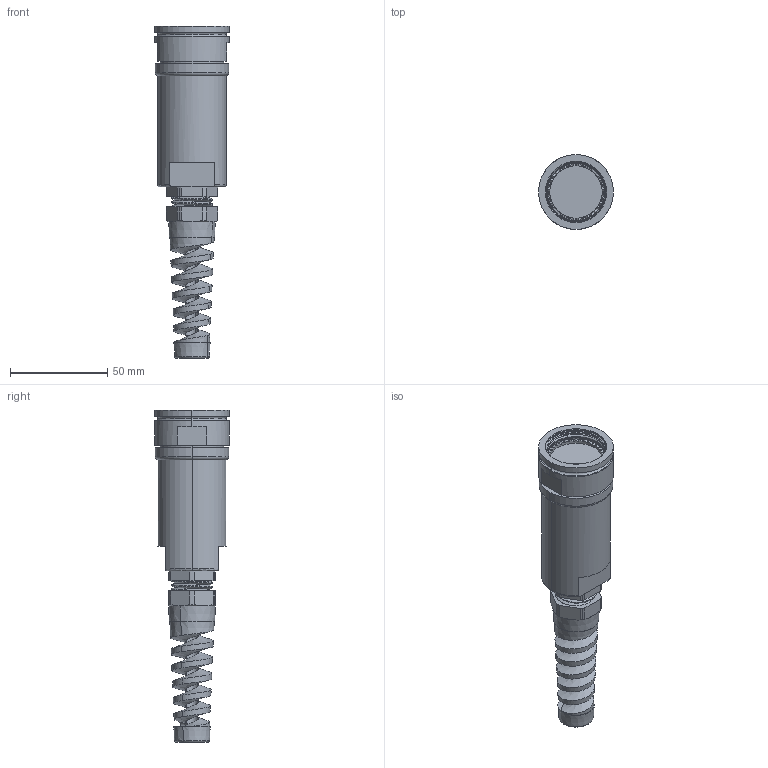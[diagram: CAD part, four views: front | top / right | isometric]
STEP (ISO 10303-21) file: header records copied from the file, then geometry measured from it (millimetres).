
FILE_DESCRIPTION (( 'STEP AP214' ), '1' );
FILE_NAME ('Q38SHELL-STX-21-XXXX-GB.STEP', '2025-09-09T22:21:03', ( '' ), ( '' ), 'SwSTEP 2.0', 'SolidWorks 2024', '' );
FILE_SCHEMA (( 'AUTOMOTIVE_DESIGN' ));
Length unit declared in the file: millimetre
Products named in the file (1): Q38SHELL-STX-21-XXXX-GB
Bounding box: 38.58 x 38.58 x 171.07 mm (x, y, z)
Volume: 99060 mm3; surface area: 24530.3 mm2
Topology: 2 solids, 2 shells, 313 faces, 982 edges, 687 vertices
Faces by surface type: plane 184, cylinder 69, cone 38, torus 15, bspline 7
Entity records: 16080 total; most frequent: CARTESIAN_POINT 7929, ORIENTED_EDGE 1964, DIRECTION 1487, EDGE_CURVE 982, VERTEX_POINT 687, AXIS2_PLACEMENT_3D 606, EDGE_LOOP 331, ADVANCED_FACE 313
